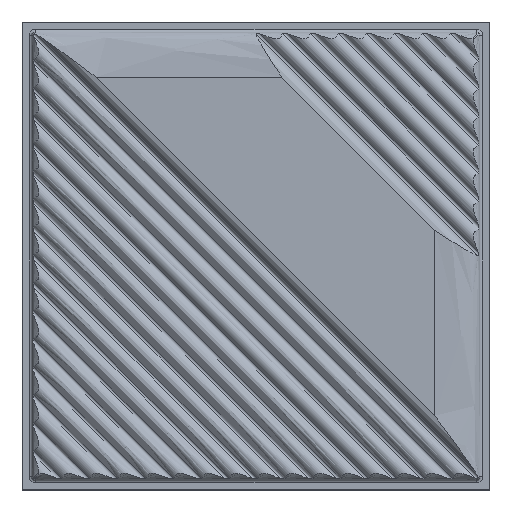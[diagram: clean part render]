
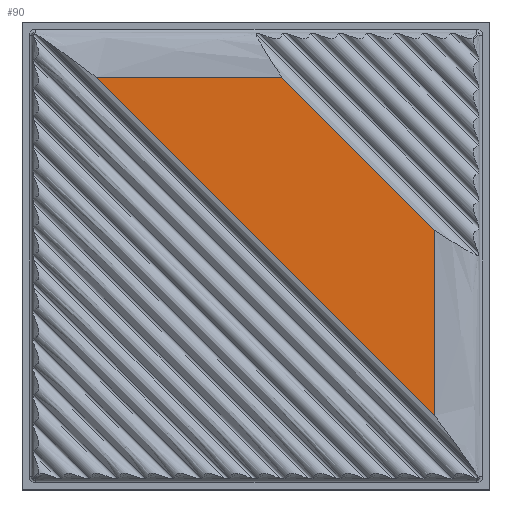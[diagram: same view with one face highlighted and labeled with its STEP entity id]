
A CAD part, top view. The second image highlights one B-rep face of the part: STEP entity #90.
In plain terms, the highlighted planar face has unit normal (0, 0, 1).
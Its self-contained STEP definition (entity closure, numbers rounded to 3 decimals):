
#90=ADVANCED_FACE('',(#172),#1359,.T.);
#172=FACE_OUTER_BOUND('',#254,.T.);
#254=EDGE_LOOP('',(#673,#674,#675,#676));
#673=ORIENTED_EDGE('',*,*,#898,.T.);
#674=ORIENTED_EDGE('',*,*,#908,.T.);
#675=ORIENTED_EDGE('',*,*,#904,.T.);
#676=ORIENTED_EDGE('',*,*,#907,.T.);
#898=EDGE_CURVE('',#1271,#1272,#1119,.T.);
#904=EDGE_CURVE('',#1275,#1276,#969,.T.);
#907=EDGE_CURVE('',#1276,#1271,#1127,.T.);
#908=EDGE_CURVE('',#1272,#1275,#1128,.T.);
#969=(
BOUNDED_CURVE()
B_SPLINE_CURVE(1,(#4600,#4601),.UNSPECIFIED.,.F.,.F.)
B_SPLINE_CURVE_WITH_KNOTS((2,2),(-696.866,-82.643),
 .UNSPECIFIED.)
CURVE()
GEOMETRIC_REPRESENTATION_ITEM()
RATIONAL_B_SPLINE_CURVE((1.,1.))
REPRESENTATION_ITEM('')
);
#1119=B_SPLINE_CURVE_WITH_KNOTS('',1,(#4544,#4545),.UNSPECIFIED.,.F.,.F.,
(2,2),(63.888,341.457),.UNSPECIFIED.);
#1127=B_SPLINE_CURVE_WITH_KNOTS('',1,(#4638,#4639),.UNSPECIFIED.,.F.,.F.,
(2,2),(151.633,389.683),.UNSPECIFIED.);
#1128=B_SPLINE_CURVE_WITH_KNOTS('',1,(#4640,#4641),.UNSPECIFIED.,.F.,.F.,
(2,2),(326.187,564.237),.UNSPECIFIED.);
#1271=VERTEX_POINT('',#2094);
#1272=VERTEX_POINT('',#2095);
#1275=VERTEX_POINT('',#2098);
#1276=VERTEX_POINT('',#2099);
#1359=PLANE('',#1496);
#1496=AXIS2_PLACEMENT_3D('',#1963,#1548,$);
#1548=DIRECTION('',(0.,0.,1.));
#1963=CARTESIAN_POINT('',(-3807.958,-781.881,-10.));
#2094=CARTESIAN_POINT('',(-4352.252,-250.849,-10.));
#2095=CARTESIAN_POINT('',(-4548.523,-54.578,-10.));
#2098=CARTESIAN_POINT('',(-4786.573,-54.578,-10.));
#2099=CARTESIAN_POINT('',(-4352.252,-488.899,-10.));
#4544=CARTESIAN_POINT('',(-4352.252,-250.849,-10.));
#4545=CARTESIAN_POINT('',(-4548.523,-54.578,-10.));
#4600=CARTESIAN_POINT('',(-4786.573,-54.578,-10.));
#4601=CARTESIAN_POINT('',(-4352.252,-488.899,-10.));
#4638=CARTESIAN_POINT('',(-4352.252,-488.899,-10.));
#4639=CARTESIAN_POINT('',(-4352.252,-250.849,-10.));
#4640=CARTESIAN_POINT('',(-4548.523,-54.578,-10.));
#4641=CARTESIAN_POINT('',(-4786.573,-54.578,-10.));
